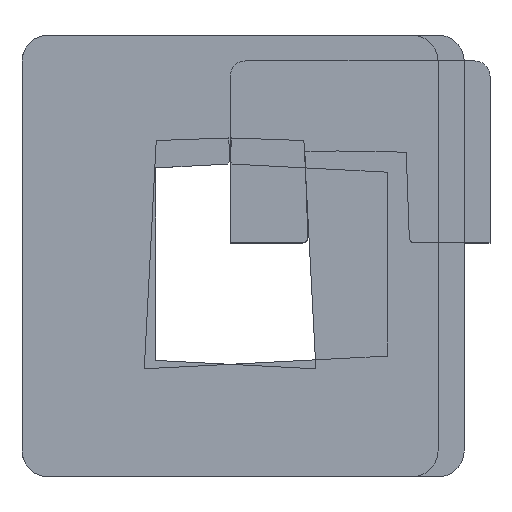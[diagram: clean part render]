
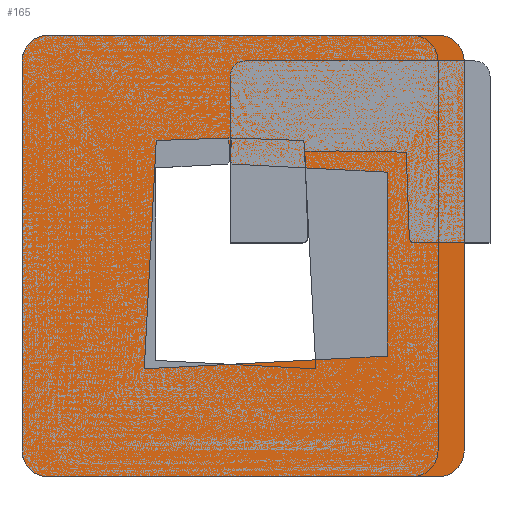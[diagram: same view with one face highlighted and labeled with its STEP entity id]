
A CAD part, top view. The second image highlights one B-rep face of the part: STEP entity #165.
In plain terms, the highlighted planar face has unit normal (0, 0, 1).
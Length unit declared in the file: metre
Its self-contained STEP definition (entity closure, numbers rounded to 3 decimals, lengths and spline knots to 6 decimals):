
#165=ADVANCED_FACE('',(#344,#345),#346,.T.);
#344=FACE_BOUND('',#545,.T.);
#345=FACE_OUTER_BOUND('',#546,.T.);
#346=PLANE('',#547);
#545=EDGE_LOOP('',(#884,#885,#886,#887,#888,#889,#890));
#546=EDGE_LOOP('',(#891,#892,#893,#894,#895,#896,#897,#898));
#547=AXIS2_PLACEMENT_3D('',#899,#900,#901);
#884=ORIENTED_EDGE('',*,*,#1220,.F.);
#885=ORIENTED_EDGE('',*,*,#1221,.F.);
#886=ORIENTED_EDGE('',*,*,#1222,.F.);
#887=ORIENTED_EDGE('',*,*,#1223,.F.);
#888=ORIENTED_EDGE('',*,*,#1224,.F.);
#889=ORIENTED_EDGE('',*,*,#1225,.F.);
#890=ORIENTED_EDGE('',*,*,#1226,.F.);
#891=ORIENTED_EDGE('',*,*,#1212,.T.);
#892=ORIENTED_EDGE('',*,*,#1182,.T.);
#893=ORIENTED_EDGE('',*,*,#1198,.T.);
#894=ORIENTED_EDGE('',*,*,#1187,.T.);
#895=ORIENTED_EDGE('',*,*,#1190,.T.);
#896=ORIENTED_EDGE('',*,*,#1194,.T.);
#897=ORIENTED_EDGE('',*,*,#1215,.T.);
#898=ORIENTED_EDGE('',*,*,#1218,.T.);
#899=CARTESIAN_POINT('',(0.04,0.035,0.0045));
#900=DIRECTION('',(0.0,0.0,1.0));
#901=DIRECTION('',(1.0,0.0,-0.0));
#1182=EDGE_CURVE('',#1392,#1390,#1393,.T.);
#1187=EDGE_CURVE('',#1401,#1399,#1402,.T.);
#1190=EDGE_CURVE('',#1399,#1405,#1406,.T.);
#1194=EDGE_CURVE('',#1405,#1411,#1412,.T.);
#1198=EDGE_CURVE('',#1390,#1401,#1417,.T.);
#1212=EDGE_CURVE('',#1440,#1392,#1441,.T.);
#1215=EDGE_CURVE('',#1411,#1444,#1445,.T.);
#1218=EDGE_CURVE('',#1444,#1440,#1448,.T.);
#1220=EDGE_CURVE('',#1450,#1451,#1452,.T.);
#1221=EDGE_CURVE('',#1453,#1450,#1454,.T.);
#1222=EDGE_CURVE('',#1455,#1453,#1456,.T.);
#1223=EDGE_CURVE('',#1457,#1455,#1458,.T.);
#1224=EDGE_CURVE('',#1459,#1457,#1460,.T.);
#1225=EDGE_CURVE('',#1461,#1459,#1462,.T.);
#1226=EDGE_CURVE('',#1451,#1461,#1463,.T.);
#1390=VERTEX_POINT('',#1688);
#1392=VERTEX_POINT('',#1691);
#1393=CIRCLE('',#1692,0.005);
#1399=VERTEX_POINT('',#1699);
#1401=VERTEX_POINT('',#1702);
#1402=CIRCLE('',#1703,0.005);
#1405=VERTEX_POINT('',#1707);
#1406=LINE('',#1708,#1709);
#1411=VERTEX_POINT('',#1716);
#1412=CIRCLE('',#1717,0.005);
#1417=LINE('',#1723,#1724);
#1440=VERTEX_POINT('',#1757);
#1441=LINE('',#1758,#1759);
#1444=VERTEX_POINT('',#1763);
#1445=LINE('',#1764,#1765);
#1448=CIRCLE('',#1769,0.005);
#1450=VERTEX_POINT('',#1771);
#1451=VERTEX_POINT('',#1772);
#1452=LINE('',#1773,#1774);
#1453=VERTEX_POINT('',#1775);
#1454=LINE('',#1776,#1777);
#1455=VERTEX_POINT('',#1778);
#1456=LINE('',#1779,#1780);
#1457=VERTEX_POINT('',#1781);
#1458=LINE('',#1782,#1783);
#1459=VERTEX_POINT('',#1784);
#1460=LINE('',#1785,#1786);
#1461=VERTEX_POINT('',#1787);
#1462=LINE('',#1788,#1789);
#1463=LINE('',#1790,#1791);
#1688=CARTESIAN_POINT('',(0.045025,-0.04,0.0045));
#1691=CARTESIAN_POINT('',(0.040025,-0.045,0.0045));
#1692=AXIS2_PLACEMENT_3D('',#2003,#2004,#2005);
#1699=CARTESIAN_POINT('',(0.040025,0.04,0.0045));
#1702=CARTESIAN_POINT('',(0.045025,0.035,0.0045));
#1703=AXIS2_PLACEMENT_3D('',#2011,#2012,#2013);
#1707=CARTESIAN_POINT('',(-0.035,0.04,0.0045));
#1708=CARTESIAN_POINT('',(-0.035,0.04,0.0045));
#1709=VECTOR('',#2015,1.0);
#1716=CARTESIAN_POINT('',(-0.04,0.035,0.0045));
#1717=AXIS2_PLACEMENT_3D('',#2018,#2019,#2020);
#1723=CARTESIAN_POINT('',(0.045025,0.035,0.0045));
#1724=VECTOR('',#2025,1.0);
#1757=CARTESIAN_POINT('',(-0.035,-0.045,0.0045));
#1758=CARTESIAN_POINT('',(0.04,-0.045,0.0045));
#1759=VECTOR('',#2039,1.0);
#1763=CARTESIAN_POINT('',(-0.04,-0.04,0.0045));
#1764=CARTESIAN_POINT('',(-0.04,-0.04,0.0045));
#1765=VECTOR('',#2041,1.0);
#1769=AXIS2_PLACEMENT_3D('',#2043,#2044,#2045);
#1771=CARTESIAN_POINT('',(-0.000026,0.015699,0.0045));
#1772=CARTESIAN_POINT('',(-0.000262,0.0202,0.0045));
#1773=CARTESIAN_POINT('',(-0.000262,0.0202,0.0045));
#1774=VECTOR('',#2046,1.0);
#1775=CARTESIAN_POINT('',(0.000499,0.015174,0.0045));
#1776=CARTESIAN_POINT('',(-0.000026,0.015699,0.0045));
#1777=VECTOR('',#2047,1.0);
#1778=CARTESIAN_POINT('',(0.0302,0.013617,0.0045));
#1779=CARTESIAN_POINT('',(0.000499,0.015174,0.0045));
#1780=VECTOR('',#2048,1.0);
#1781=CARTESIAN_POINT('',(0.0302,-0.021752,0.0045));
#1782=CARTESIAN_POINT('',(0.0302,0.013617,0.0045));
#1783=VECTOR('',#2049,1.0);
#1784=CARTESIAN_POINT('',(-0.016501,-0.0242,0.0045));
#1785=CARTESIAN_POINT('',(0.0302,-0.021752,0.0045));
#1786=VECTOR('',#2050,1.0);
#1787=CARTESIAN_POINT('',(-0.0142,0.019713,0.0045));
#1788=CARTESIAN_POINT('',(-0.016501,-0.0242,0.0045));
#1789=VECTOR('',#2051,1.0);
#1790=CARTESIAN_POINT('',(-0.0142,0.019713,0.0045));
#1791=VECTOR('',#2052,1.0);
#2003=CARTESIAN_POINT('',(0.040025,-0.04,0.0045));
#2004=DIRECTION('',(0.0,0.0,1.0));
#2005=DIRECTION('',(1.0,0.0,-0.0));
#2011=CARTESIAN_POINT('',(0.040025,0.035,0.0045));
#2012=DIRECTION('',(0.0,0.0,1.0));
#2013=DIRECTION('',(1.0,0.0,-0.0));
#2015=DIRECTION('',(-1.0,0.0,0.0));
#2018=CARTESIAN_POINT('',(-0.035,0.035,0.0045));
#2019=DIRECTION('',(0.0,0.0,1.0));
#2020=DIRECTION('',(0.707,-0.707,0.0));
#2025=DIRECTION('',(0.0,1.0,0.0));
#2039=DIRECTION('',(1.0,0.0,0.0));
#2041=DIRECTION('',(0.0,-1.0,0.0));
#2043=CARTESIAN_POINT('',(-0.035,-0.04,0.0045));
#2044=DIRECTION('',(0.0,-0.0,1.0));
#2045=DIRECTION('',(0.707,0.707,0.0));
#2046=DIRECTION('',(-0.052,0.999,0.0));
#2047=DIRECTION('',(-0.707,0.707,0.0));
#2048=DIRECTION('',(-0.999,0.052,0.0));
#2049=DIRECTION('',(0.0,1.0,0.0));
#2050=DIRECTION('',(0.999,0.052,0.0));
#2051=DIRECTION('',(-0.052,-0.999,0.0));
#2052=DIRECTION('',(-0.999,-0.035,0.0));
